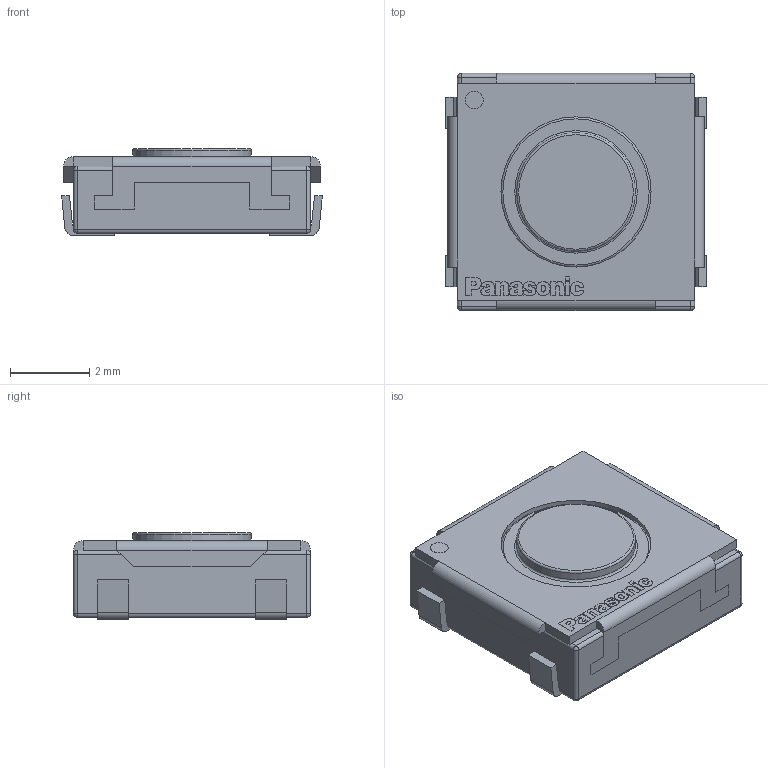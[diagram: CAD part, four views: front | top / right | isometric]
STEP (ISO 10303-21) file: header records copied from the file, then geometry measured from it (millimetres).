
FILE_DESCRIPTION(/* description */ (''),/* implementation_level */ '2;1');
FILE_NAME(/* name */ 'C:\Users\rabri\Documents\_UPVERTER\Upverter 3D models\Panasonic\EVQ-Q2F01W\Panasonic EVQ-Q2F01W - Switch Tactile N.O. SPST Round Button J-Bend 0.02A 15VDC 1N SMD Embossed TR.stp',/* time_stamp */ '2020-10-21T03:06:13-04:00',/* author */ ('rabri'),/* organization */ (''),/* preprocessor_version */ 'ST-DEVELOPER v18',/* originating_system */ 'Autodesk Inventor 2020',/* authorisation */ '');
FILE_SCHEMA (('AUTOMOTIVE_DESIGN { 1 0 10303 214 3 1 1 }'));
Length unit declared in the file: millimetre
Products named in the file (6): Panasonic EVQ-Q2H03W - Tactile Switch SPST-NO Top Actuated Surface Mo
unt; shell; pins; base; button; logo
Assembly tree (5 placements, depth 2):
  Panasonic EVQ-Q2H03W - Tactile Switch SPST-NO Top Actuated Surface Mo
unt
    shell
    pins
    base
    button
    logo
Bounding box: 6.6 x 6 x 2.2 mm (x, y, z)
Volume: 73.1 mm3; surface area: 238.9 mm2
Topology: 18 solids, 18 shells, 361 faces, 928 edges, 604 vertices
Faces by surface type: plane 198, bspline 123, cylinder 28, sphere 8, torus 4
Full cylindrical faces by diameter (mm): 0.45 x1, 3 x1, 3.8 x2
Entity records: 11814 total; most frequent: CARTESIAN_POINT 3415, ORIENTED_EDGE 1856, DIRECTION 1328, EDGE_CURVE 928, LINE 606, VECTOR 606, VERTEX_POINT 604, EDGE_LOOP 372
